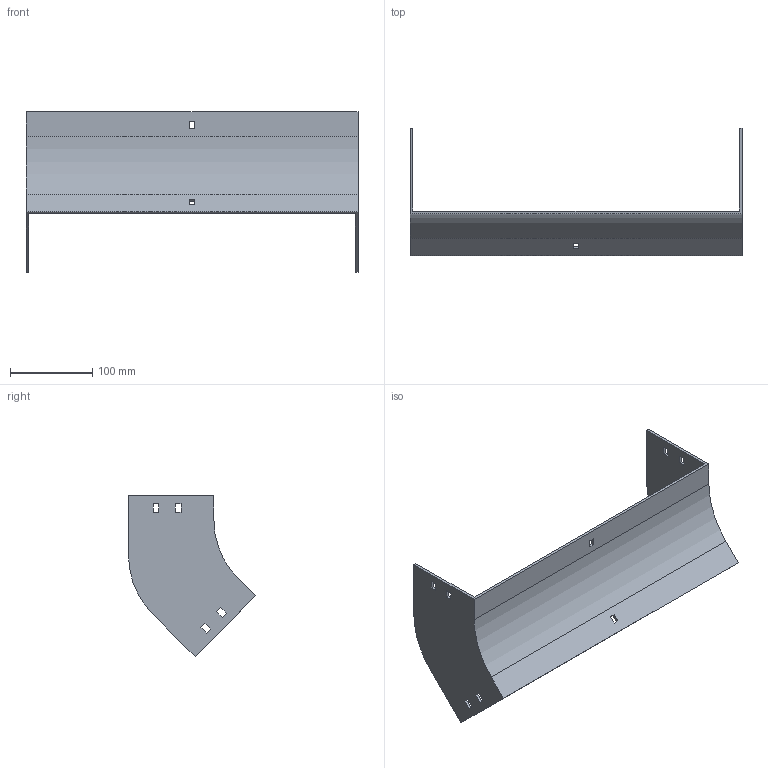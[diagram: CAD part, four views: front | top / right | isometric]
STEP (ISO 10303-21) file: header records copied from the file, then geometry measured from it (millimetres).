
FILE_DESCRIPTION (( 'STEP AP214' ), '1' );
FILE_NAME ('34F1D400.step', '2025-02-21T12:50:29', ( '' ), ( '' ), 'SwSTEP 2.0', 'SolidWorks 2023', '' );
FILE_SCHEMA (( 'AUTOMOTIVE_DESIGN' ));
Length unit declared in the file: millimetre
Products named in the file (1): 34F1D400
Bounding box: 404 x 154.5 x 195.46 mm (x, y, z)
Volume: 327391.8 mm3; surface area: 194048.3 mm2
Topology: 1 solids, 1 shells, 58 faces, 168 edges, 112 vertices
Faces by surface type: plane 54, cylinder 4
Entity records: 1943 total; most frequent: CARTESIAN_POINT 339, ORIENTED_EDGE 336, DIRECTION 294, EDGE_CURVE 168, VECTOR 160, LINE 160, VERTEX_POINT 112, EDGE_LOOP 78
